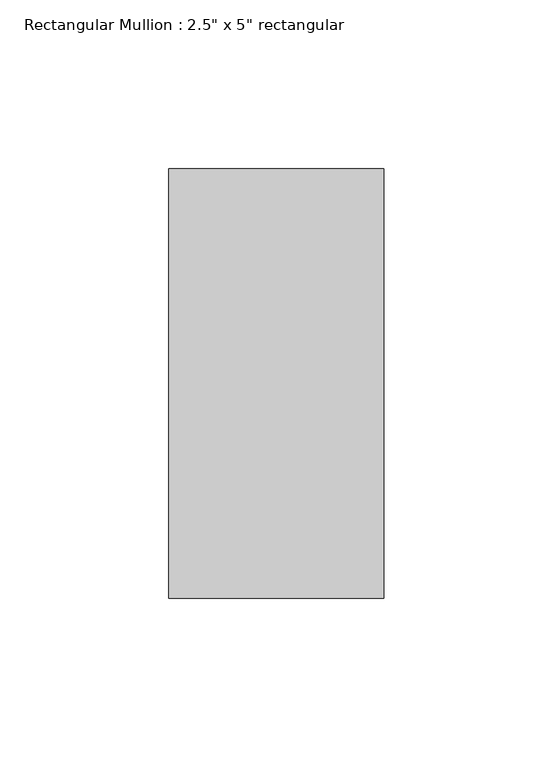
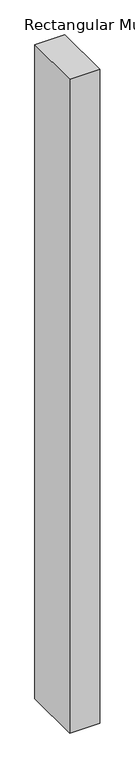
"""IFC4 building model written with IfcOpenShell, lengths in millimetres: member geometry."""

from ifc_helpers import new_model, si_unit, frame, origin, place, context, project, spatial, polyline, outline, extrude, source, transform, mapped, element, save


def member_4a1dde21(model_context):
    return source(origin(), model_context, "Body", "SweptSolid", [
        extrude(outline(polyline([(0.0, 63.5), (0.0, -63.5), (-63.5, -63.5), (-63.5, 63.5), (0.0, 63.5)])), frame((0.0, 0.0, -1460.5), z_axis=(0.0, 0.0, 1.0), x_axis=(1.0, 0.0, 0.0)), (0.0, 0.0, 1.0), 1460.5),
    ])


if __name__ == "__main__":
    model = new_model("IFC4")
    model_context = context("Model", 3, world=origin())
    ifc_project = project(units=[si_unit("LENGTHUNIT", "METRE", prefix="MILLI")], contexts=[model_context])
    site = spatial("IfcSite", under=ifc_project)
    building = spatial("IfcBuilding", under=site)
    placement = place(None, origin())
    member_shape = member_4a1dde21(model_context)
    element("IfcMember", 1, ObjectType="Rectangular Mullion : 2.5\" x 5\" rectangular", at=placement, inside=building, context=model_context, shape_type="MappedRepresentation", body=[
        mapped(member_shape, transform((0.0, 0.0, 0.0), x_axis=(1.0, 0.0, 0.0), y_axis=(0.0, 1.0, 0.0), z_axis=(0.0, 0.0, 1.0))),
    ])
    save(model, "model.ifc")
